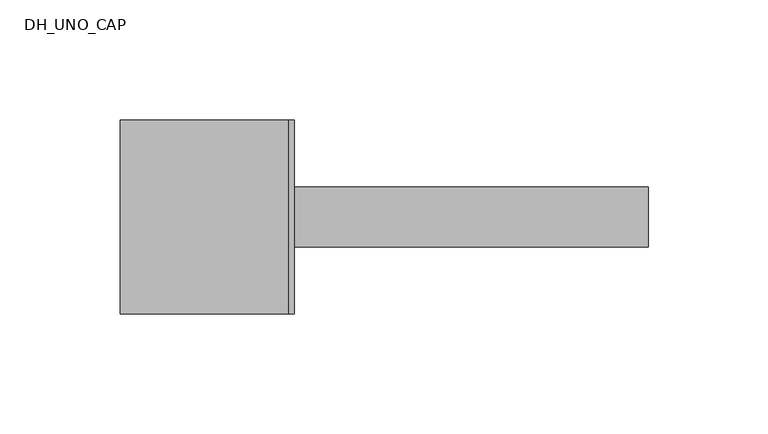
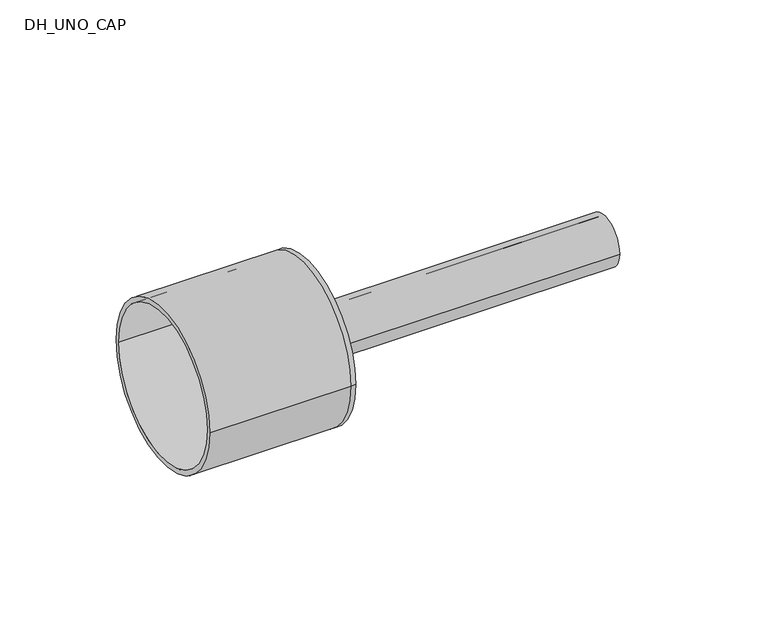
"""IFC4 building model written with IfcOpenShell, lengths in millimetres: pipe fitting geometry, DH_UNO_CAP : RAUTHERMEX UNO 11 COOL - Solid Cap."""

from ifc_helpers import new_model, si_unit, point, frame, origin, origin_2d, place, context, project, spatial, polyline, circle_curve, trimmed, segment, composite_curve, outline, extrude, source, transform, mapped, element, save
from ifc_brep_helpers import plane_surface, cylinder_surface, revolved_surface, advanced_brep


def dh_uno_cap_75e82632(model_context):
    return source(origin(), model_context, "Body", "SolidModel", [
        extrude(outline(composite_curve([segment(trimmed(circle_curve(origin_2d(), 12.5), [point((-12.5, 0.0))], [point((12.5, 0.0))], False, "CARTESIAN"), True, "CONTINUOUS"), segment(trimmed(circle_curve(origin_2d(), 12.5), [point((12.5, 0.0))], [point((-12.5, 0.0))], False, "CARTESIAN"), True, "CONTINUOUS")], self_intersect=False), holes=[composite_curve([segment(trimmed(circle_curve(origin_2d(), 10.2), [point((-10.2, 0.0))], [point((10.2, 0.0))], True, "CARTESIAN"), True, "CONTINUOUS"), segment(trimmed(circle_curve(origin_2d(), 10.2), [point((10.2, 0.0))], [point((-10.2, 0.0))], True, "CARTESIAN"), True, "CONTINUOUS")], self_intersect=False)]), frame((0.0, 0.0, 0.0), z_axis=(1.0, 0.0, 0.0), x_axis=(0.0, 1.0, 0.0)), (0.0, 0.0, 1.0), 150.0),
        advanced_brep(
        [(-70.0, -40.5, 0.0), (-70.0, 40.5, 0.0), (-70.0, -38.0, 0.0), (-70.0, 38.0, 0.0), (0.0, -38.0, 0.0), (0.0, 38.0, 0.0), (0.0, -40.5, 0.0), (0.0, 40.5, 0.0), (0.0, 12.5, 0.0), (0.0, -12.5, 0.0), (2.5, -40.5, 0.0), (2.5, 40.5, 0.0), (2.5, -12.5, 0.0), (2.5, 12.5, 0.0)],
        [
            (0, 1, circle_curve(frame((-70.0, 0.0, 0.0), z_axis=(-1.0, 0.0, 0.0), x_axis=(0.0, 1.0, 0.0)), 40.5)),
            (1, 0, circle_curve(frame((-70.0, 0.0, 0.0), z_axis=(-1.0, 0.0, 0.0), x_axis=(0.0, 1.0, 0.0)), 40.5)),
            (2, 3, circle_curve(frame((-70.0, 0.0, 0.0), z_axis=(1.0, 0.0, 0.0), x_axis=(0.0, 1.0, 0.0)), 38.0)),
            (3, 2, circle_curve(frame((-70.0, 0.0, 0.0), z_axis=(1.0, 0.0, 0.0), x_axis=(0.0, 1.0, 0.0)), 38.0)),
            (2, 4),
            (4, 5, circle_curve(frame((0.0, 0.0, 0.0), z_axis=(1.0, 0.0, 0.0), x_axis=(0.0, 1.0, 0.0)), 38.0)),
            (5, 3),
            (5, 4, circle_curve(frame((0.0, 0.0, 0.0), z_axis=(1.0, 0.0, 0.0), x_axis=(0.0, 1.0, 0.0)), 38.0)),
            (0, 6),
            (6, 7, circle_curve(frame((0.0, 0.0, 0.0), z_axis=(-1.0, 0.0, 0.0), x_axis=(0.0, 1.0, 0.0)), 40.5)),
            (7, 1),
            (7, 6, circle_curve(frame((0.0, 0.0, 0.0), z_axis=(-1.0, 0.0, 0.0), x_axis=(0.0, 1.0, 0.0)), 40.5)),
            (8, 9, circle_curve(frame((0.0, 0.0, 0.0), z_axis=(1.0, 0.0, 0.0), x_axis=(0.0, 1.0, 0.0)), 12.5)),
            (9, 8, circle_curve(frame((0.0, 0.0, 0.0), z_axis=(1.0, 0.0, 0.0), x_axis=(0.0, 1.0, 0.0)), 12.5)),
            (10, 11, circle_curve(frame((2.5, 0.0, 0.0), z_axis=(1.0, 0.0, 0.0), x_axis=(0.0, 1.0, 0.0)), 40.5)),
            (11, 10, circle_curve(frame((2.5, 0.0, 0.0), z_axis=(1.0, 0.0, 0.0), x_axis=(0.0, 1.0, 0.0)), 40.5)),
            (12, 13, circle_curve(frame((2.5, 0.0, 0.0), z_axis=(-1.0, 0.0, 0.0), x_axis=(0.0, 1.0, 0.0)), 12.5)),
            (13, 12, circle_curve(frame((2.5, 0.0, 0.0), z_axis=(-1.0, 0.0, 0.0), x_axis=(0.0, 1.0, 0.0)), 12.5)),
            (11, 7),
            (6, 10),
            (8, 13),
            (12, 9),
        ],
        [
            plane_surface(frame((-70.0, 0.0, 0.0), z_axis=(-1.0, 0.0, 0.0), x_axis=(0.0, 0.0, 1.0))),
            revolved_surface(polyline([(0.0, 38.0, 0.0), (-70.0, 38.0, 0.0)]), (-70.0, 0.0, 0.0), (1.0, 0.0, 0.0)),
            cylinder_surface(frame((-70.0, 0.0, 0.0), z_axis=(-1.0, 0.0, 0.0), x_axis=(0.0, 1.0, 0.0)), 40.5),
            plane_surface(frame((0.0, 0.0, 0.0), z_axis=(-1.0, 0.0, 0.0), x_axis=(0.0, 0.0, 1.0))),
            plane_surface(frame((2.5, 0.0, 0.0), z_axis=(1.0, 0.0, 0.0), x_axis=(0.0, 0.0, 1.0))),
            cylinder_surface(frame((0.0, 0.0, 0.0), z_axis=(-1.0, 0.0, 0.0), x_axis=(0.0, 1.0, 0.0)), 40.5),
            revolved_surface(polyline([(0.0, 12.5, 0.0), (2.5, 12.5, 0.0)]), (0.0, 0.0, 0.0), (-1.0, 0.0, 0.0)),
        ],
        [
            (0, [[1, 2], [3, 4]]),
            (1, [[-3, 5, 6, 7]]),
            (1, [[-4, -7, 8, -5]]),
            (2, [[-1, 9, 10, 11]]),
            (2, [[-2, -11, 12, -9]]),
            (3, [[-6, -8], [13, 14]]),
            (4, [[15, 16], [17, 18]]),
            (5, [[-16, 19, -10, 20]]),
            (5, [[-15, -20, -12, -19]]),
            (6, [[21, -17, 22, -13]]),
            (6, [[-21, -14, -22, -18]]),
        ],
    ),
    ])


if __name__ == "__main__":
    model = new_model("IFC4")
    model_context = context("Model", 3, world=origin())
    ifc_project = project(units=[si_unit("LENGTHUNIT", "METRE", prefix="MILLI")], contexts=[model_context])
    site = spatial("IfcSite", under=ifc_project)
    building = spatial("IfcBuilding", under=site)
    placement = place(None, origin())
    dh_uno_cap_shape = dh_uno_cap_75e82632(model_context)
    element("IfcPipeFitting", 1, ObjectType="DH_UNO_CAP : RAUTHERMEX UNO 11 COOL - Solid Cap", at=placement, inside=building, context=model_context, shape_type="MappedRepresentation", body=[
        mapped(dh_uno_cap_shape, transform((0.0, 0.0, 0.0), x_axis=(1.0, 0.0, 0.0), y_axis=(0.0, 1.0, 0.0), z_axis=(0.0, 0.0, 1.0))),
    ])
    save(model, "model.ifc")
